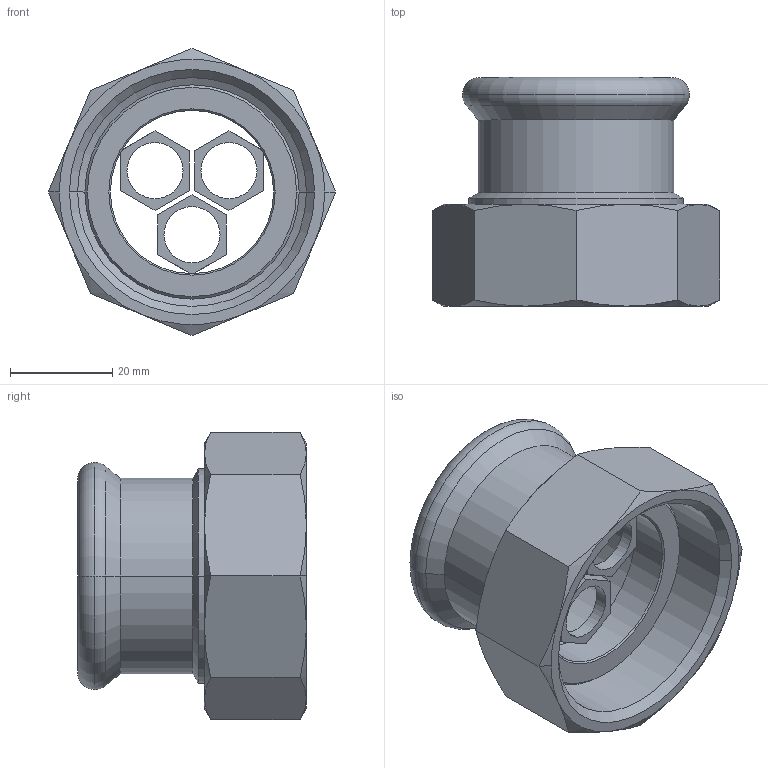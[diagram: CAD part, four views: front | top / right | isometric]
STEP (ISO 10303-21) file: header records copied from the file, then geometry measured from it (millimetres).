
FILE_DESCRIPTION(('OneSpaceDesigner STEP Export'),'2;1');
FILE_NAME('R2704 35xG1 1-2.stp','2010-06-09T10:03:41',(''),(''),'OneSpace Designer STEP processor for AP214 (Solid Model)','OneSpace Modeling 15.00A 14-Mar-2007 (C) CoCreate Software GmbH','');
FILE_SCHEMA(('AUTOMOTIVE_DESIGN { 1 0 10303 214 1 1 1 1 }'));
Length unit declared in the file: millimetre
Products named in the file (2): R2704_35xG1.1-2
Assembly tree (1 placements, depth 2):
  R2704_35xG1.1-2
    R2704_35xG1.1-2
Bounding box: 56.28 x 44.87 x 56.28 mm (x, y, z)
Volume: 25738.8 mm3; surface area: 17504.8 mm2
Topology: 1 solids, 1 shells, 109 faces, 251 edges, 150 vertices
Faces by surface type: plane 40, cone 36, cylinder 25, torus 8
Entity records: 3801 total; most frequent: CARTESIAN_POINT 1655, ORIENTED_EDGE 502, DIRECTION 331, EDGE_CURVE 251, VERTEX_POINT 150, EDGE_LOOP 123, VECTOR 119, LINE 119
